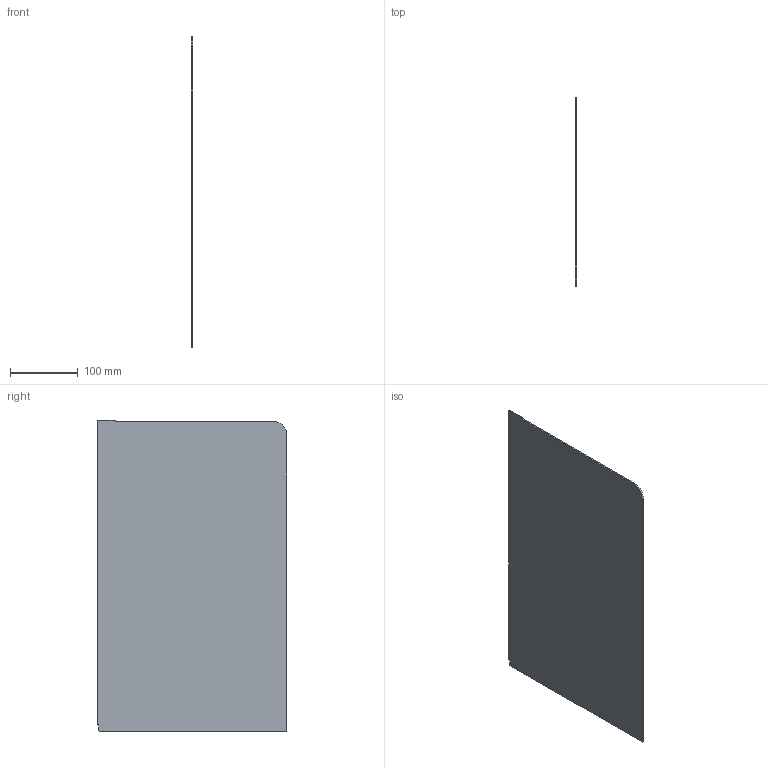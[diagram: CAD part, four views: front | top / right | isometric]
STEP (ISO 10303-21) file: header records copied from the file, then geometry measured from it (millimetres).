
FILE_DESCRIPTION(('Open CASCADE Model'),'2;1');
FILE_NAME('Open CASCADE Shape Model','2026-09-23T02:05:59',('Author'),( 'Open CASCADE'),'Open CASCADE STEP processor 7.7','Open CASCADE 7.7' ,'Unknown');
FILE_SCHEMA(('AUTOMOTIVE_DESIGN { 1 0 10303 214 1 1 1 1 }'));
Length unit declared in the file: millimetre
Products named in the file (1): Open CASCADE STEP translator 7.7 3
Bounding box: 2 x 278 x 458 mm (x, y, z)
Volume: 253459.2 mm3; surface area: 256386.1 mm2
Topology: 1 solids, 1 shells, 12 faces, 30 edges, 20 vertices
Faces by surface type: plane 10, cylinder 2
Entity records: 751 total; most frequent: CARTESIAN_POINT 139, DIRECTION 109, LINE 72, VECTOR 72, ORIENTED_EDGE 60, PCURVE 60, DEFINITIONAL_REPRESENTATION 60, EDGE_CURVE 30
